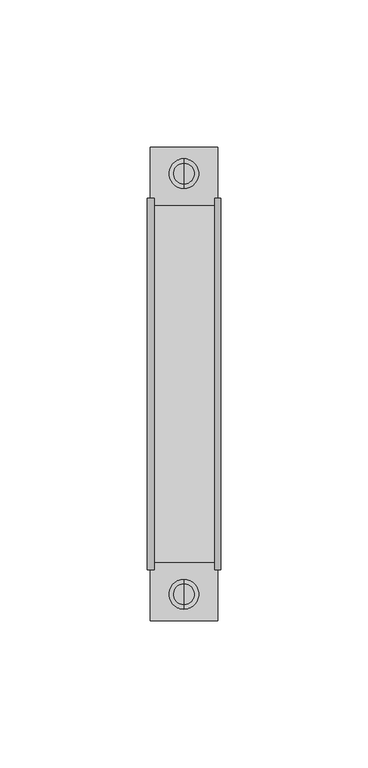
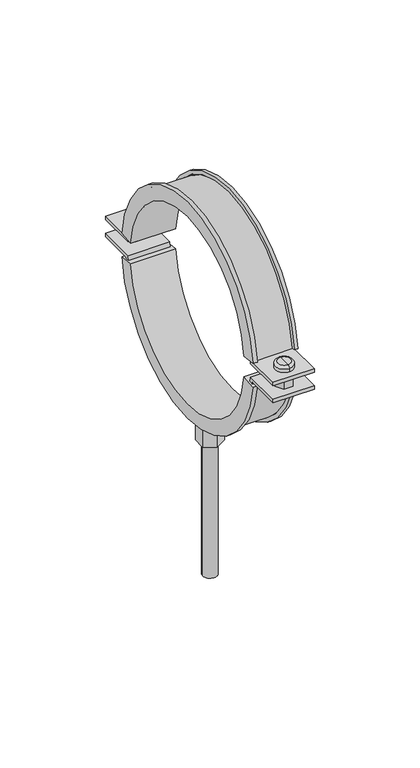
"""IFC4 building model written with IfcOpenShell, lengths in millimetres: pipe fitting geometry, NIRON abrazadera isofonica lisa : Estándard."""

from ifc_helpers import new_model, si_unit, point, frame, origin, origin_2d, place, context, project, spatial, polyline, circle_curve, ellipse_curve, trimmed, segment, composite_curve, outline, extrude, source, transform, mapped, element, save
from ifc_brep_helpers import plane_surface, cylinder_surface, revolved_surface, advanced_brep


def pipe_fitting_107216ef(model_context):
    return source(origin(), model_context, "Body", "SolidModel", [
        advanced_brep(
        [(0.0, 67.5, -7.8), (0.0, 67.5, -4.8), (0.0, 75.5, -4.8), (0.0, 75.5, -7.8), (0.0, 71.5, -7.8), (0.0, 71.5, -4.8)],
        [
            (0, 1),
            (1, 2, circle_curve(frame((0.0, 71.5, -4.8), z_axis=(0.0, 0.0, -1.0), x_axis=(0.0, 1.0, 0.0)), 4.0)),
            (2, 3),
            (3, 0, circle_curve(frame((0.0, 71.5, -7.8), z_axis=(0.0, 0.0, 1.0), x_axis=(0.0, 1.0, 0.0)), 4.0)),
            (2, 1, circle_curve(frame((0.0, 71.5, -4.8), z_axis=(0.0, 0.0, -1.0), x_axis=(0.0, 1.0, 0.0)), 4.0)),
            (0, 3, circle_curve(frame((0.0, 71.5, -7.8), z_axis=(0.0, 0.0, 1.0), x_axis=(0.0, 1.0, 0.0)), 4.0)),
            (4, 0),
            (3, 4),
            (1, 5),
            (5, 2),
        ],
        [
            cylinder_surface(frame((0.0, 71.5, -110.5332781), z_axis=(0.0, 0.0, -1.0), x_axis=(0.0, 1.0, 0.0)), 4.0),
            plane_surface(frame((0.0, 71.5, -7.8), z_axis=(0.0, 0.0, -1.0), x_axis=(0.0, 1.0, 0.0))),
            plane_surface(frame((0.0, 71.5, -4.8), z_axis=(0.0, 0.0, 1.0), x_axis=(0.0, 1.0, 0.0))),
        ],
        [
            (0, [[1, 2, 3, 4]]),
            (0, [[-3, 5, -1, 6]]),
            (1, [[7, -4, 8]]),
            (1, [[-8, -6, -7]]),
            (2, [[9, 10, -2]]),
            (2, [[-10, -9, -5]]),
        ],
    ),
        advanced_brep(
        [(0.0, 71.5, 4.8), (0.0, 66.5, 4.8), (0.0, 76.5, 4.8), (0.0, 66.5, 7.3), (0.0, 76.5, 7.3), (0.0, 68.0, 8.8), (0.0, 71.5, 8.8), (0.0, 75.0, 8.8)],
        [
            (0, 1),
            (1, 2, circle_curve(frame((0.0, 71.5, 4.8), z_axis=(0.0, 0.0, -1.0), x_axis=(0.0, 1.0, 0.0)), 5.0)),
            (2, 0),
            (2, 1, circle_curve(frame((0.0, 71.5, 4.8), z_axis=(0.0, 0.0, -1.0), x_axis=(0.0, 1.0, 0.0)), 5.0)),
            (1, 3),
            (3, 4, circle_curve(frame((0.0, 71.5, 7.3), z_axis=(0.0, 0.0, -1.0), x_axis=(0.0, 1.0, 0.0)), 5.0)),
            (4, 2),
            (4, 3, circle_curve(frame((0.0, 71.5, 7.3), z_axis=(0.0, 0.0, -1.0), x_axis=(0.0, 1.0, 0.0)), 5.0)),
            (5, 6),
            (6, 7),
            (7, 5, circle_curve(frame((0.0, 71.5, 8.8), z_axis=(0.0, 0.0, 1.0), x_axis=(0.0, 1.0, 0.0)), 3.5)),
            (5, 7, circle_curve(frame((0.0, 71.5, 8.8), z_axis=(0.0, 0.0, 1.0), x_axis=(0.0, 1.0, 0.0)), 3.5)),
            (3, 5, circle_curve(frame((0.0, 68.0, 7.3), z_axis=(-1.0, 0.0, 0.0), x_axis=(0.0, 1.0, 0.0)), 1.5)),
            (7, 4, circle_curve(frame((0.0, 75.0, 7.3), z_axis=(-1.0, 0.0, 0.0), x_axis=(0.0, -1.0, 0.0)), 1.5)),
        ],
        [
            plane_surface(frame((0.0, 71.5, 4.8), z_axis=(0.0, 0.0, -1.0), x_axis=(0.0, 1.0, 0.0))),
            cylinder_surface(frame((0.0, 71.5, 9.8), z_axis=(0.0, 0.0, -1.0), x_axis=(0.0, 1.0, 0.0)), 5.0),
            plane_surface(frame((0.0, 71.5, 8.8), z_axis=(0.0, 0.0, 1.0), x_axis=(0.0, 1.0, 0.0))),
            revolved_surface(trimmed(ellipse_curve(frame((0.0, 75.0, 7.3), z_axis=(-1.0, 0.0, 0.0), x_axis=(0.0, -1.0, 0.0)), 1.5, 1.5), [point((0.0, 75.0, 8.8))], [point((0.0, 76.5, 7.3))], True, "CARTESIAN"), (0.0, 71.5, 9.8), (0.0, 0.0, -1.0)),
        ],
        [
            (0, [[1, 2, 3]]),
            (0, [[-3, 4, -1]]),
            (1, [[5, 6, 7, -2]]),
            (1, [[-7, 8, -5, -4]]),
            (2, [[9, 10, 11]]),
            (2, [[-10, -9, 12]]),
            (3, [[13, -11, 14, -6]]),
            (3, [[-14, -12, -13, -8]]),
        ],
    ),
        advanced_brep(
        [(0.0, -67.5, -7.4875), (0.0, -75.5, -7.4875), (0.0, -75.5, -4.4875), (0.0, -67.5, -4.4875), (0.0, -71.5, -7.4875), (0.0, -71.5, -4.4875)],
        [
            (0, 1, circle_curve(frame((0.0, -71.5, -7.4875), z_axis=(0.0, 0.0, 1.0), x_axis=(0.0, -1.0, 0.0)), 4.0)),
            (1, 2),
            (2, 3, circle_curve(frame((0.0, -71.5, -4.4875), z_axis=(0.0, 0.0, -1.0), x_axis=(0.0, -1.0, 0.0)), 4.0)),
            (3, 0),
            (1, 0, circle_curve(frame((0.0, -71.5, -7.4875), z_axis=(0.0, 0.0, 1.0), x_axis=(0.0, -1.0, 0.0)), 4.0)),
            (3, 2, circle_curve(frame((0.0, -71.5, -4.4875), z_axis=(0.0, 0.0, -1.0), x_axis=(0.0, -1.0, 0.0)), 4.0)),
            (4, 1),
            (0, 4),
            (2, 5),
            (5, 3),
        ],
        [
            cylinder_surface(frame((0.0, -71.5, -110.2207781), z_axis=(0.0, 0.0, -1.0), x_axis=(0.0, -1.0, 0.0)), 4.0),
            plane_surface(frame((0.0, -71.5, -7.4875), z_axis=(0.0, 0.0, -1.0), x_axis=(0.0, -1.0, 0.0))),
            plane_surface(frame((0.0, -71.5, -4.4875), z_axis=(0.0, 0.0, 1.0), x_axis=(0.0, -1.0, 0.0))),
        ],
        [
            (0, [[1, 2, 3, 4]]),
            (0, [[5, -4, 6, -2]]),
            (1, [[7, -1, 8]]),
            (1, [[-8, -5, -7]]),
            (2, [[-3, 9, 10]]),
            (2, [[-6, -10, -9]]),
        ],
    ),
        advanced_brep(
        [(0.0, -71.5, 5.1125), (0.0, -76.5, 5.1125), (0.0, -66.5, 5.1125), (0.0, -76.5, 7.6125), (0.0, -66.5, 7.6125), (0.0, -68.0, 9.1125), (0.0, -75.0, 9.1125), (0.0, -71.5, 9.1125)],
        [
            (0, 1),
            (1, 2, circle_curve(frame((0.0, -71.5, 5.1125), z_axis=(0.0, 0.0, -1.0), x_axis=(0.0, -1.0, 0.0)), 5.0)),
            (2, 0),
            (2, 1, circle_curve(frame((0.0, -71.5, 5.1125), z_axis=(0.0, 0.0, -1.0), x_axis=(0.0, -1.0, 0.0)), 5.0)),
            (1, 3),
            (3, 4, circle_curve(frame((0.0, -71.5, 7.6125), z_axis=(0.0, 0.0, -1.0), x_axis=(0.0, -1.0, 0.0)), 5.0)),
            (4, 2),
            (4, 3, circle_curve(frame((0.0, -71.5, 7.6125), z_axis=(0.0, 0.0, -1.0), x_axis=(0.0, -1.0, 0.0)), 5.0)),
            (5, 6, circle_curve(frame((0.0, -71.5, 9.1125), z_axis=(0.0, 0.0, 1.0), x_axis=(0.0, -1.0, 0.0)), 3.5)),
            (6, 7),
            (7, 5),
            (6, 5, circle_curve(frame((0.0, -71.5, 9.1125), z_axis=(0.0, 0.0, 1.0), x_axis=(0.0, -1.0, 0.0)), 3.5)),
            (3, 6, circle_curve(frame((0.0, -75.0, 7.6125), z_axis=(-1.0, 0.0, 0.0), x_axis=(0.0, 1.0, 0.0)), 1.5)),
            (5, 4, circle_curve(frame((0.0, -68.0, 7.6125), z_axis=(-1.0, 0.0, 0.0), x_axis=(0.0, -1.0, 0.0)), 1.5)),
        ],
        [
            plane_surface(frame((0.0, -71.5, 5.1125), z_axis=(0.0, 0.0, -1.0), x_axis=(0.0, -1.0, 0.0))),
            cylinder_surface(frame((0.0, -71.5, 10.1125), z_axis=(0.0, 0.0, -1.0), x_axis=(0.0, -1.0, 0.0)), 5.0),
            plane_surface(frame((0.0, -71.5, 9.1125), z_axis=(0.0, 0.0, 1.0), x_axis=(0.0, -1.0, 0.0))),
            revolved_surface(trimmed(ellipse_curve(frame((0.0, -75.0, 7.6125), z_axis=(1.0, 0.0, 0.0), x_axis=(0.0, 1.0, 0.0)), 1.5, 1.5), [point((0.0, -75.0, 9.1125))], [point((0.0, -76.5, 7.6125))], True, "CARTESIAN"), (0.0, -71.5, 10.1125), (0.0, 0.0, -1.0)),
        ],
        [
            (0, [[1, 2, 3]]),
            (0, [[-3, 4, -1]]),
            (1, [[-2, 5, 6, 7]]),
            (1, [[-4, -7, 8, -5]]),
            (2, [[9, 10, 11]]),
            (2, [[12, -11, -10]]),
            (3, [[-6, 13, -9, 14]]),
            (3, [[-8, -14, -12, -13]]),
        ],
    ),
        extrude(outline(polyline([(2.5, 67.169873), (-2.5, 67.169873), (-5.0, 71.5), (-2.5, 75.830127), (2.5, 75.830127), (5.0, 71.5), (2.5, 67.169873)])), frame((0.0, 0.0, -4.0), z_axis=(0.0, 0.0, 1.0), x_axis=(1.0, 0.0, 0.0)), (0.0, 0.0, 1.0), 8.0),
        extrude(outline(polyline([(2.5, -67.169873), (5.0, -71.5), (2.5, -75.830127), (-2.5, -75.830127), (-5.0, -71.5), (-2.5, -67.169873), (2.5, -67.169873)])), frame((0.0, 0.0, -4.0), z_axis=(0.0, 0.0, 1.0), x_axis=(1.0, 0.0, 0.0)), (0.0, 0.0, 1.0), 8.0),
        advanced_brep(
        [(12.5, -54.6768817, 6.0), (12.5, -63.0772389, 6.9146025), (10.5, -63.0772389, 6.9146025), (10.5, -61.0889887, 6.6981285), (11.5, -61.0889887, 6.6981285), (11.5, -59.1007384, 6.4816546), (-11.5, -59.1007384, 6.4816546), (-11.5, -61.0889887, 6.6981285), (-10.0466338, -61.0889887, 6.6981285), (-10.0466338, -63.0772389, 6.9146025), (-12.5, -63.0772389, 6.9146025), (-12.5, -54.6768817, 6.0), (12.5, 54.6768817, 6.0), (-12.5, 54.6768817, 6.0), (-12.5, 63.0772389, 6.9146025), (-10.0466338, 63.0772389, 6.9146025), (-10.0466338, 61.0889887, 6.6981285), (-11.5, 61.0889887, 6.6981285), (-11.5, 59.1007384, 6.4816546), (11.5, 59.1007384, 6.4816546), (11.5, 61.0889887, 6.6981285), (10.5, 61.0889887, 6.6981285), (10.5, 63.0772389, 6.9146025), (12.5, 63.0772389, 6.9146025)],
        [
            (0, 1),
            (1, 2),
            (2, 3),
            (3, 4),
            (4, 5),
            (5, 6),
            (6, 7),
            (7, 8),
            (8, 9),
            (9, 10),
            (10, 11),
            (11, 0),
            (12, 13),
            (13, 14),
            (14, 15),
            (15, 16),
            (16, 17),
            (17, 18),
            (18, 19),
            (19, 20),
            (20, 21),
            (21, 22),
            (22, 23),
            (23, 12),
            (12, 0, circle_curve(frame((12.5, 0.0, 0.0469661), z_axis=(1.0, 0.0, 0.0), x_axis=(0.0, -0.9941251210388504, 0.1082369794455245)), 55.0)),
            (11, 13, circle_curve(frame((-12.5, 0.0, 0.0469661), z_axis=(-1.0, 0.0, 0.0), x_axis=(0.0, -0.9941251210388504, 0.1082369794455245)), 55.0)),
            (10, 14, circle_curve(frame((-12.5, 0.0, 0.0469661), z_axis=(-1.0, 0.0, 0.0), x_axis=(0.0, -0.9941251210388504, 0.1082369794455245)), 63.45)),
            (9, 15, circle_curve(frame((-10.0466338, 0.0, 0.0469661), z_axis=(-1.0, 0.0, 0.0), x_axis=(0.0, -0.9941251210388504, 0.1082369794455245)), 63.45)),
            (8, 16, circle_curve(frame((-10.0466338, 0.0, 0.0469661), z_axis=(-1.0, 0.0, 0.0), x_axis=(0.0, -0.9941251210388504, 0.1082369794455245)), 61.45)),
            (7, 17, circle_curve(frame((-11.5, 0.0, 0.0469661), z_axis=(-1.0, 0.0, 0.0), x_axis=(0.0, -0.9941251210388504, 0.1082369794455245)), 61.45)),
            (6, 18, circle_curve(frame((-11.5, 0.0, 0.0469661), z_axis=(-1.0, 0.0, 0.0), x_axis=(0.0, -0.9941251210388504, 0.1082369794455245)), 59.45)),
            (5, 19, circle_curve(frame((11.5, 0.0, 0.0469661), z_axis=(-1.0, 0.0, 0.0), x_axis=(0.0, -0.9941251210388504, 0.1082369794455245)), 59.45)),
            (4, 20, circle_curve(frame((11.5, 0.0, 0.0469661), z_axis=(-1.0, 0.0, 0.0), x_axis=(0.0, -0.9941251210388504, 0.1082369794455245)), 61.45)),
            (3, 21, circle_curve(frame((10.5, 0.0, 0.0469661), z_axis=(-1.0, 0.0, 0.0), x_axis=(0.0, -0.9941251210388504, 0.1082369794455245)), 61.45)),
            (2, 22, circle_curve(frame((10.5, 0.0, 0.0469661), z_axis=(-1.0, 0.0, 0.0), x_axis=(0.0, -0.9941251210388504, 0.1082369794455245)), 63.45)),
            (1, 23, circle_curve(frame((12.5, 0.0, 0.0469661), z_axis=(-1.0, 0.0, 0.0), x_axis=(0.0, -0.9941251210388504, 0.1082369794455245)), 63.45)),
        ],
        [
            plane_surface(frame((0.0, -54.6768817, 6.0), z_axis=(0.0, -0.10823697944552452, -0.9941251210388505), x_axis=(1.0, 0.0, 0.0))),
            plane_surface(frame((0.0, 54.6768817, 6.0), z_axis=(0.0, 0.10823697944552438, -0.9941251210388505), x_axis=(1.0, 0.0, 0.0))),
            revolved_surface(polyline([(-12.5, -54.676881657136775, 5.999999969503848), (12.5, -54.676881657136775, 5.999999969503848)]), (0.0, 0.0, 0.0469661), (-1.0, 0.0, 0.0)),
            plane_surface(frame((-12.5, 0.0, 0.0469661), z_axis=(-1.0000000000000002, 0.0, 0.0), x_axis=(0.0, -0.9941251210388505, 0.10823697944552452))),
            cylinder_surface(frame((0.0, 0.0, 0.0469661), z_axis=(-1.0, 0.0, 0.0), x_axis=(0.0, -0.9941251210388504, 0.1082369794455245)), 63.45),
            plane_surface(frame((-10.0466338, 0.0, 0.0469661), z_axis=(1.0000000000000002, 0.0, 0.0), x_axis=(0.0, -0.9941251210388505, 0.10823697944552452))),
            revolved_surface(polyline([(-11.5, -61.088988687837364, 6.698128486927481), (-10.0466338, -61.088988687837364, 6.698128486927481)]), (0.0, 0.0, 0.0469661), (-1.0, 0.0, 0.0)),
            plane_surface(frame((-11.5, 0.0, 0.0469661), z_axis=(1.0000000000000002, 0.0, 0.0), x_axis=(0.0, -0.9941251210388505, 0.10823697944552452))),
            cylinder_surface(frame((0.0, 0.0, 0.0469661), z_axis=(-1.0, 0.0, 0.0), x_axis=(0.0, -0.9941251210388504, 0.1082369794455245)), 59.45),
            plane_surface(frame((11.5, 0.0, 0.0469661), z_axis=(-1.0000000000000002, 0.0, 0.0), x_axis=(0.0, -0.9941251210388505, 0.10823697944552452))),
            revolved_surface(polyline([(10.5, -61.088988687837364, 6.698128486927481), (11.5, -61.088988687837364, 6.698128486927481)]), (0.0, 0.0, 0.0469661), (-1.0, 0.0, 0.0)),
            plane_surface(frame((10.5, 0.0, 0.0469661), z_axis=(-1.0000000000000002, 0.0, 0.0), x_axis=(0.0, -0.9941251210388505, 0.10823697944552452))),
            plane_surface(frame((12.5, 0.0, 0.0469661), z_axis=(1.0000000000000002, 0.0, 0.0), x_axis=(0.0, -0.9941251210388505, 0.10823697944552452))),
        ],
        [
            (0, [[1, 2, 3, 4, 5, 6, 7, 8, 9, 10, 11, 12]]),
            (1, [[13, 14, 15, 16, 17, 18, 19, 20, 21, 22, 23, 24]]),
            (2, [[25, -12, 26, -13]]),
            (3, [[-26, -11, 27, -14]]),
            (4, [[-27, -10, 28, -15]]),
            (5, [[-28, -9, 29, -16]]),
            (6, [[-29, -8, 30, -17]]),
            (7, [[-30, -7, 31, -18]]),
            (8, [[-31, -6, 32, -19]]),
            (9, [[-32, -5, 33, -20]]),
            (10, [[-33, -4, 34, -21]]),
            (11, [[-34, -3, 35, -22]]),
            (4, [[-35, -2, 36, -23]]),
            (12, [[-36, -1, -25, -24]]),
        ],
    ),
        extrude(outline(composite_curve([segment(trimmed(circle_curve(origin_2d(), 59.0), [point((-58.8642506, -4.0))], [point((58.8642506, -4.0))], True, "CARTESIAN"), True, "CONTINUOUS"), segment(polyline([(58.8642506, -4.0), (80.5, -4.0), (80.5, -6.0), (60.7042008, -6.0)]), True, "CONTINUOUS"), segment(trimmed(circle_curve(origin_2d(), 61.0), [point((60.7042008, -6.0))], [point((-60.7042008, -6.0))], False, "CARTESIAN"), True, "CONTINUOUS"), segment(polyline([(-60.7042008, -6.0), (-80.5, -6.0), (-80.5, -4.0), (-58.8642506, -4.0)]), True, "CONTINUOUS")], self_intersect=False)), frame((-11.5, 0.0, 0.0), z_axis=(1.0, 0.0, 0.0), x_axis=(0.0, 1.0, 0.0)), (0.0, 0.0, 1.0), 23.0),
        advanced_brep(
        [(12.5, -54.6717477, -6.0), (-12.5, -54.6717477, -6.0), (-12.5, -63.0713162, -6.9218182), (-10.0466338, -63.0713162, -6.9218182), (-10.0466338, -61.0832527, -6.7036364), (-11.5, -61.0832527, -6.7036364), (-11.5, -59.0951891, -6.4854545), (11.5, -59.0951891, -6.4854545), (11.5, -61.0832527, -6.7036364), (10.5, -61.0832527, -6.7036364), (10.5, -63.0713162, -6.9218182), (12.5, -63.0713162, -6.9218182), (12.5, 54.6717477, -6.0), (12.5, 63.0713162, -6.9218182), (10.5, 63.0713162, -6.9218182), (10.5, 61.0832527, -6.7036364), (11.5, 61.0832527, -6.7036364), (11.5, 59.0951891, -6.4854545), (-11.5, 59.0951891, -6.4854545), (-11.5, 61.0832527, -6.7036364), (-10.0466338, 61.0832527, -6.7036364), (-10.0466338, 63.0713162, -6.9218182), (-12.5, 63.0713162, -6.9218182), (-12.5, 54.6717477, -6.0)],
        [
            (0, 1),
            (1, 2),
            (2, 3),
            (3, 4),
            (4, 5),
            (5, 6),
            (6, 7),
            (7, 8),
            (8, 9),
            (9, 10),
            (10, 11),
            (11, 0),
            (12, 13),
            (13, 14),
            (14, 15),
            (15, 16),
            (16, 17),
            (17, 18),
            (18, 19),
            (19, 20),
            (20, 21),
            (21, 22),
            (22, 23),
            (23, 12),
            (23, 1, circle_curve(frame((-12.5, 0.0, 0.0), z_axis=(-1.0, 0.0, 0.0), x_axis=(0.0, -0.9940317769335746, -0.10909090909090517)), 55.0)),
            (0, 12, circle_curve(frame((12.5, 0.0, 0.0), z_axis=(1.0, 0.0, 0.0), x_axis=(0.0, -0.9940317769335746, -0.10909090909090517)), 55.0)),
            (22, 2, circle_curve(frame((-12.5, 0.0, 0.0), z_axis=(-1.0, 0.0, 0.0), x_axis=(0.0, -0.9940317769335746, -0.10909090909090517)), 63.45)),
            (21, 3, circle_curve(frame((-10.0466338, 0.0, 0.0), z_axis=(-1.0, 0.0, 0.0), x_axis=(0.0, -0.9940317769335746, -0.10909090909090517)), 63.45)),
            (20, 4, circle_curve(frame((-10.0466338, 0.0, 0.0), z_axis=(-1.0, 0.0, 0.0), x_axis=(0.0, -0.9940317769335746, -0.10909090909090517)), 61.45)),
            (19, 5, circle_curve(frame((-11.5, 0.0, 0.0), z_axis=(-1.0, 0.0, 0.0), x_axis=(0.0, -0.9940317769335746, -0.10909090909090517)), 61.45)),
            (18, 6, circle_curve(frame((-11.5, 0.0, 0.0), z_axis=(-1.0, 0.0, 0.0), x_axis=(0.0, -0.9940317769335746, -0.10909090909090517)), 59.45)),
            (17, 7, circle_curve(frame((11.5, 0.0, 0.0), z_axis=(-1.0, 0.0, 0.0), x_axis=(0.0, -0.9940317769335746, -0.10909090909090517)), 59.45)),
            (16, 8, circle_curve(frame((11.5, 0.0, 0.0), z_axis=(-1.0, 0.0, 0.0), x_axis=(0.0, -0.9940317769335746, -0.10909090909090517)), 61.45)),
            (15, 9, circle_curve(frame((10.5, 0.0, 0.0), z_axis=(-1.0, 0.0, 0.0), x_axis=(0.0, -0.9940317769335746, -0.10909090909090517)), 61.45)),
            (14, 10, circle_curve(frame((10.5, 0.0, 0.0), z_axis=(-1.0, 0.0, 0.0), x_axis=(0.0, -0.9940317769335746, -0.10909090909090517)), 63.45)),
            (13, 11, circle_curve(frame((12.5, 0.0, 0.0), z_axis=(-1.0, 0.0, 0.0), x_axis=(0.0, -0.9940317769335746, -0.10909090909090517)), 63.45)),
        ],
        [
            plane_surface(frame((0.0, -54.6717477, -6.0), z_axis=(0.0, -0.10909090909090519, 0.9940317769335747), x_axis=(1.0, 0.0, 0.0))),
            plane_surface(frame((0.0, 54.6717477, -6.0), z_axis=(0.0, 0.10909090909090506, 0.9940317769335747), x_axis=(1.0, 0.0, 0.0))),
            revolved_surface(polyline([(12.5, -54.6717477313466, -5.999999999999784), (-12.5, -54.6717477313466, -5.999999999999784)]), (0.0, 0.0, 0.0), (1.0, 0.0, 0.0)),
            plane_surface(frame((-12.5, 0.0, 0.0), z_axis=(-1.0000000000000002, 0.0, 0.0), x_axis=(0.0, -0.9940317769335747, -0.10909090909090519))),
            cylinder_surface(frame((0.0, 0.0, 0.0), z_axis=(1.0, 0.0, 0.0), x_axis=(0.0, -0.9940317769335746, -0.10909090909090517)), 63.45),
            plane_surface(frame((-10.0466338, 0.0, 0.0), z_axis=(1.0000000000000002, 0.0, 0.0), x_axis=(0.0, -0.9940317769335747, -0.10909090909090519))),
            revolved_surface(polyline([(-10.0466338, -61.08325269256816, -6.703636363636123), (-11.5, -61.08325269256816, -6.703636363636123)]), (0.0, 0.0, 0.0), (1.0, 0.0, 0.0)),
            plane_surface(frame((-11.5, 0.0, 0.0), z_axis=(1.0000000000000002, 0.0, 0.0), x_axis=(0.0, -0.9940317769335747, -0.10909090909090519))),
            cylinder_surface(frame((0.0, 0.0, 0.0), z_axis=(1.0, 0.0, 0.0), x_axis=(0.0, -0.9940317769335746, -0.10909090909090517)), 59.45),
            plane_surface(frame((11.5, 0.0, 0.0), z_axis=(-1.0000000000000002, 0.0, 0.0), x_axis=(0.0, -0.9940317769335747, -0.10909090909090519))),
            revolved_surface(polyline([(11.5, -61.08325269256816, -6.703636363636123), (10.5, -61.08325269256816, -6.703636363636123)]), (0.0, 0.0, 0.0), (1.0, 0.0, 0.0)),
            plane_surface(frame((10.5, 0.0, 0.0), z_axis=(-1.0000000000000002, 0.0, 0.0), x_axis=(0.0, -0.9940317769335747, -0.10909090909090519))),
            plane_surface(frame((12.5, 0.0, 0.0), z_axis=(1.0000000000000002, 0.0, 0.0), x_axis=(0.0, -0.9940317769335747, -0.10909090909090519))),
        ],
        [
            (0, [[1, 2, 3, 4, 5, 6, 7, 8, 9, 10, 11, 12]]),
            (1, [[13, 14, 15, 16, 17, 18, 19, 20, 21, 22, 23, 24]]),
            (2, [[25, -1, 26, -24]]),
            (3, [[27, -2, -25, -23]]),
            (4, [[28, -3, -27, -22]]),
            (5, [[29, -4, -28, -21]]),
            (6, [[30, -5, -29, -20]]),
            (7, [[31, -6, -30, -19]]),
            (8, [[32, -7, -31, -18]]),
            (9, [[33, -8, -32, -17]]),
            (10, [[34, -9, -33, -16]]),
            (11, [[35, -10, -34, -15]]),
            (4, [[36, -11, -35, -14]]),
            (12, [[-26, -12, -36, -13]]),
        ],
    ),
        extrude(outline(composite_curve([segment(trimmed(circle_curve(origin_2d(), 61.0), [point((-60.7042008, 6.0))], [point((60.7042008, 6.0))], False, "CARTESIAN"), True, "CONTINUOUS"), segment(polyline([(60.7042008, 6.0), (80.5, 6.0), (80.5, 4.0), (58.8642506, 4.0)]), True, "CONTINUOUS"), segment(trimmed(circle_curve(origin_2d(), 59.0), [point((58.8642506, 4.0))], [point((-58.8642506, 4.0))], True, "CARTESIAN"), True, "CONTINUOUS"), segment(polyline([(-58.8642506, 4.0), (-80.5, 4.0), (-80.5, 6.0), (-60.7042008, 6.0)]), True, "CONTINUOUS")], self_intersect=False)), frame((-11.5, 0.0, 0.0), z_axis=(1.0, 0.0, 0.0), x_axis=(0.0, 1.0, 0.0)), (0.0, 0.0, 1.0), 23.0),
        extrude(outline(composite_curve([segment(trimmed(circle_curve(origin_2d(), 4.0), [point((-4.0, 0.0))], [point((4.0, 0.0))], False, "CARTESIAN"), True, "CONTINUOUS"), segment(trimmed(circle_curve(origin_2d(), 4.0), [point((4.0, 0.0))], [point((-4.0, 0.0))], False, "CARTESIAN"), True, "CONTINUOUS")], self_intersect=False)), frame((0.0, 0.0, -159.0), z_axis=(0.0, 0.0, 1.0), x_axis=(1.0, 0.0, 0.0)), (0.0, 0.0, 1.0), 100.0),
        extrude(outline(polyline([(-6.0621778, 3.5), (0.0, 7.0), (6.0621778, 3.5), (6.0621778, -3.5), (0.0, -7.0), (-6.0621778, -3.5), (-6.0621778, 3.5)])), frame((0.0, 0.0, -80.5), z_axis=(0.0, 0.0, 1.0), x_axis=(1.0, 0.0, 0.0)), (0.0, 0.0, 1.0), 21.5),
    ])


if __name__ == "__main__":
    model = new_model("IFC4")
    model_context = context("Model", 3, world=origin())
    ifc_project = project(units=[si_unit("LENGTHUNIT", "METRE", prefix="MILLI")], contexts=[model_context])
    site = spatial("IfcSite", under=ifc_project)
    building = spatial("IfcBuilding", under=site)
    placement = place(None, origin())
    pipe_fitting_shape = pipe_fitting_107216ef(model_context)
    element("IfcPipeFitting", 1, ObjectType="NIRON abrazadera isofonica lisa : Estándard", at=placement, inside=building, context=model_context, shape_type="MappedRepresentation", body=[
        mapped(pipe_fitting_shape, transform((0.0, 0.0, 0.0), x_axis=(1.0, 0.0, 0.0), y_axis=(0.0, 1.0, 0.0), z_axis=(0.0, 0.0, 1.0))),
    ])
    save(model, "model.ifc")
